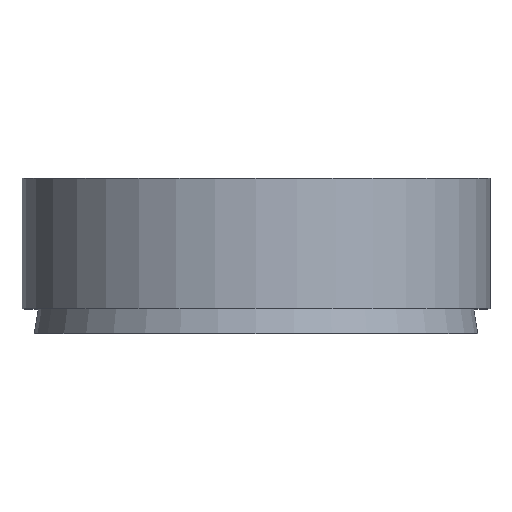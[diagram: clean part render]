
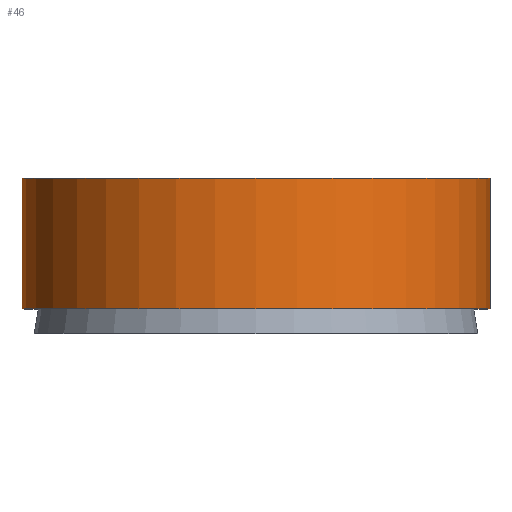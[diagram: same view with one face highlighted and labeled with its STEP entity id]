
A CAD part, top view. The second image highlights one B-rep face of the part: STEP entity #46.
In plain terms, the highlighted cylindrical face has radius 9.5 mm (diameter 19 mm), a full revolution.
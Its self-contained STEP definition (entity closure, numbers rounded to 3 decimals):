
#46 = ADVANCED_FACE( '', ( #93, #94 ), #95, .T. );
#93 = FACE_OUTER_BOUND( '', #132, .T. );
#94 = FACE_OUTER_BOUND( '', #133, .T. );
#95 = CYLINDRICAL_SURFACE( '', #134, 9.5 );
#132 = EDGE_LOOP( '', ( #179 ) );
#133 = EDGE_LOOP( '', ( #180 ) );
#134 = AXIS2_PLACEMENT_3D( '', #181, #182, #183 );
#179 = ORIENTED_EDGE( '', *, *, #189, .F. );
#180 = ORIENTED_EDGE( '', *, *, #198, .T. );
#181 = CARTESIAN_POINT( '', ( 0., -60., 0. ) );
#182 = DIRECTION( '', ( 0., 1., 0. ) );
#183 = DIRECTION( '', ( 0., 0., -1. ) );
#189 = EDGE_CURVE( '', #208, #208, #209, .T. );
#198 = EDGE_CURVE( '', #221, #221, #222, .T. );
#208 = VERTEX_POINT( '', #232 );
#209 = CIRCLE( '', #233, 9.5 );
#221 = VERTEX_POINT( '', #245 );
#222 = CIRCLE( '', #246, 9.5 );
#232 = CARTESIAN_POINT( '', ( 0., 1., -9.5 ) );
#233 = AXIS2_PLACEMENT_3D( '', #257, #258, #259 );
#245 = CARTESIAN_POINT( '', ( 0., 6.3, -9.5 ) );
#246 = AXIS2_PLACEMENT_3D( '', #269, #270, #271 );
#257 = CARTESIAN_POINT( '', ( 0., 1., 0. ) );
#258 = DIRECTION( '', ( 0., -1., 0. ) );
#259 = DIRECTION( '', ( 0., 0., -1. ) );
#269 = CARTESIAN_POINT( '', ( 0., 6.3, 0. ) );
#270 = DIRECTION( '', ( 0., -1., 0. ) );
#271 = DIRECTION( '', ( 0., 0., -1. ) );
